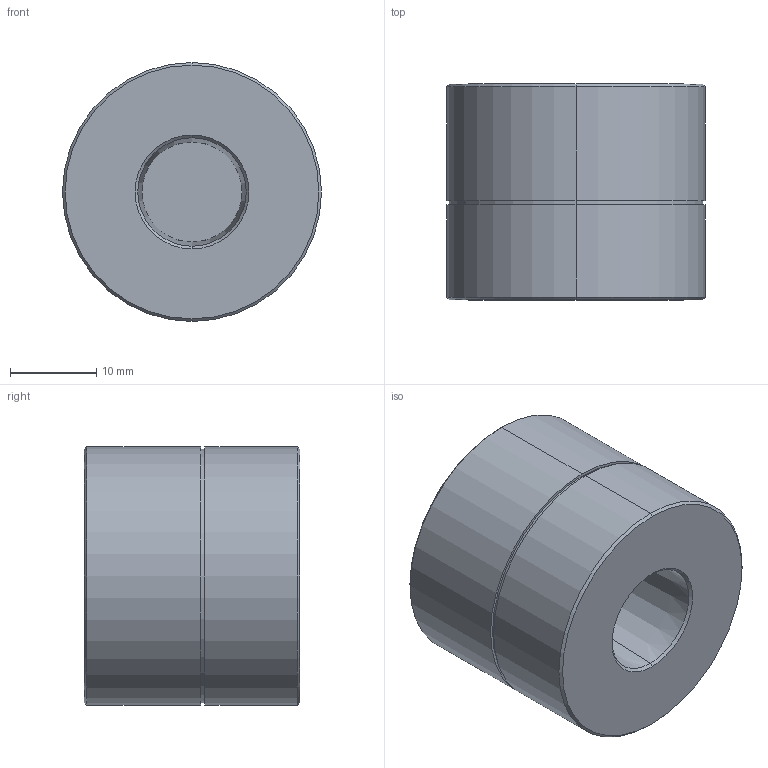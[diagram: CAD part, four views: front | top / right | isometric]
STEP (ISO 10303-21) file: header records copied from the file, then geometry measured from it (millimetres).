
FILE_DESCRIPTION (( 'STEP AP203' ), '1' );
FILE_NAME ('SW-PN-F14-T.STEP', '2022-03-28T07:15:54', ( '' ), ( '' ), 'SwSTEP 2.0', 'SolidWorks 2015', '' );
FILE_SCHEMA (( 'CONFIG_CONTROL_DESIGN' ));
Length unit declared in the file: millimetre
Products named in the file (2): SW-PN-F14-T
Bounding box: 30 x 25 x 30 mm (x, y, z)
Volume: 14533.2 mm3; surface area: 4717.2 mm2
Topology: 1 solids, 1 shells, 22 faces, 42 edges, 26 vertices
Faces by surface type: cylinder 8, cone 8, plane 6
Entity records: 719 total; most frequent: DIRECTION 116, CARTESIAN_POINT 92, ORIENTED_EDGE 84, AXIS2_PLACEMENT_3D 50, EDGE_CURVE 42, EDGE_LOOP 26, CIRCLE 26, VERTEX_POINT 26
